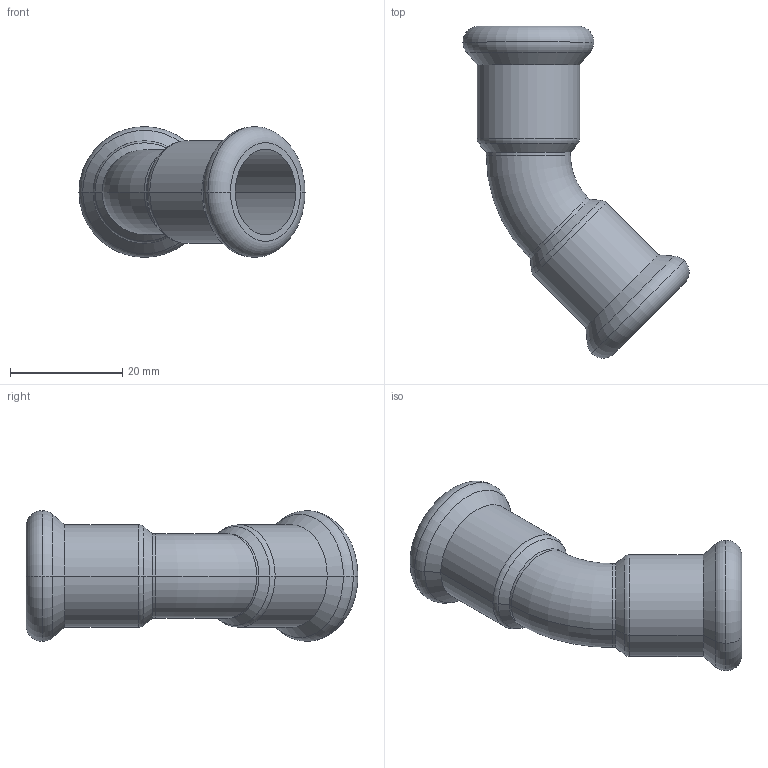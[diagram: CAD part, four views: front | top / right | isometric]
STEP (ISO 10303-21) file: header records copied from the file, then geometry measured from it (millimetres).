
FILE_DESCRIPTION(('CoCreate Modeling STEP Export'),'2;1');
FILE_NAME('C1413 15x15.stp','2014-11-11T16:47:06',(''),(''),'CoCreate Modeling STEP processor for AP214 (Solid Model)','CoCreate Modeling 17.00A 17-Jun-2010 (C) Parametric Technology GmbH','');
FILE_SCHEMA(('AUTOMOTIVE_DESIGN { 1 0 10303 214 1 1 1 1 }'));
Length unit declared in the file: millimetre
Products named in the file (2): C1413_15x15
Assembly tree (1 placements, depth 2):
  C1413_15x15
    C1413_15x15
Bounding box: 40.26 x 59.11 x 23.3 mm (x, y, z)
Volume: 5952.7 mm3; surface area: 6840.4 mm2
Topology: 1 solids, 1 shells, 50 faces, 105 edges, 61 vertices
Faces by surface type: cylinder 20, torus 16, cone 8, plane 6
Entity records: 1124 total; most frequent: ORIENTED_EDGE 210, DIRECTION 176, CARTESIAN_POINT 163, EDGE_CURVE 105, AXIS2_PLACEMENT_3D 74, VERTEX_POINT 61, EDGE_LOOP 56, FACE_OUTER_BOUND 50
